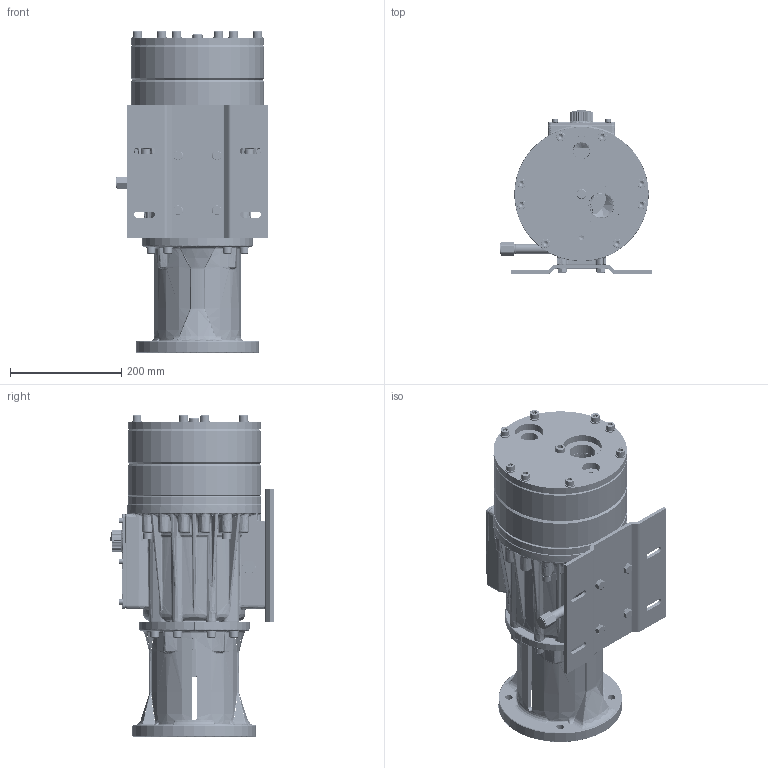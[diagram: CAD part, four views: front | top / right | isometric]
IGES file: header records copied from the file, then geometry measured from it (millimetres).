
Start section: SolidWorks IGES file using analytic representation for surfaces
Global section: file name: Q:\ENG\!!Gary\Outline-Dwgs\Latest-Pump-etc-OD\H25-P-1200-OD.IGS; native system: SolidWorks 2007; preprocessor: SolidWorks 2007; author: garyi; date: 081104.145638; units: inch
Bounding box: 273.28 x 293.87 x 576.66 mm (x, y, z)
Surface area: 1882906.1 mm2 (no closed solid volume)
Topology: 0 solids, 0 shells, 10302 faces, 117349 edges, 117281 vertices
Faces by surface type: revolution 6023, bspline 4279
